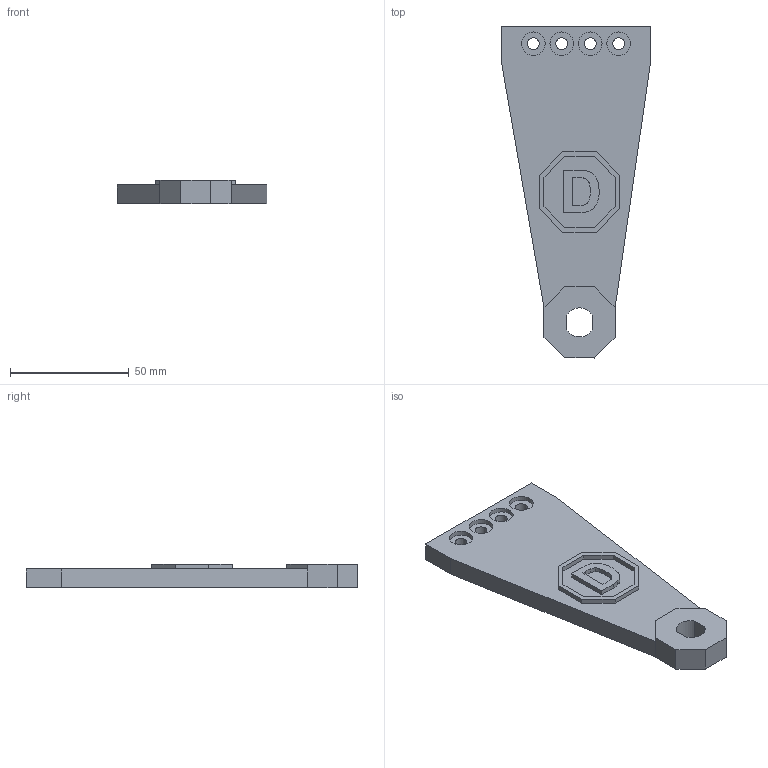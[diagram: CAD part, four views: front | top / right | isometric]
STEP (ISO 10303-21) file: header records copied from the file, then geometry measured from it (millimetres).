
FILE_DESCRIPTION(/* description */ (''),/* implementation_level */ '2;1');
FILE_NAME(/* name */ 'C:/Users/David Florian/Desktop/Cyber-Scooter-Step-Files/1-Fork.step',/* time_stamp */ '2020-12-14T22:08:15-06:00',/* author */ (''),/* organization */ (''),/* preprocessor_version */ 'ST-DEVELOPER v18.1',/* originating_system */ 'Autodesk Translation Framework v9.7.1.1290',/* authorisation */ '');
FILE_SCHEMA (('AUTOMOTIVE_DESIGN { 1 0 10303 214 3 1 1 }'));
Length unit declared in the file: millimetre
Products named in the file (1): Forkside2
Bounding box: 63 x 140 x 10 mm (x, y, z)
Volume: 50655.2 mm3; surface area: 17023.1 mm2
Topology: 1 solids, 1 shells, 74 faces, 190 edges, 126 vertices
Faces by surface type: plane 48, bspline 16, cylinder 10
Full cylindrical faces by diameter (mm): 5 x4, 10 x4
Entity records: 2431 total; most frequent: CARTESIAN_POINT 663, ORIENTED_EDGE 380, DIRECTION 296, EDGE_CURVE 190, LINE 138, VECTOR 138, VERTEX_POINT 126, EDGE_LOOP 92
